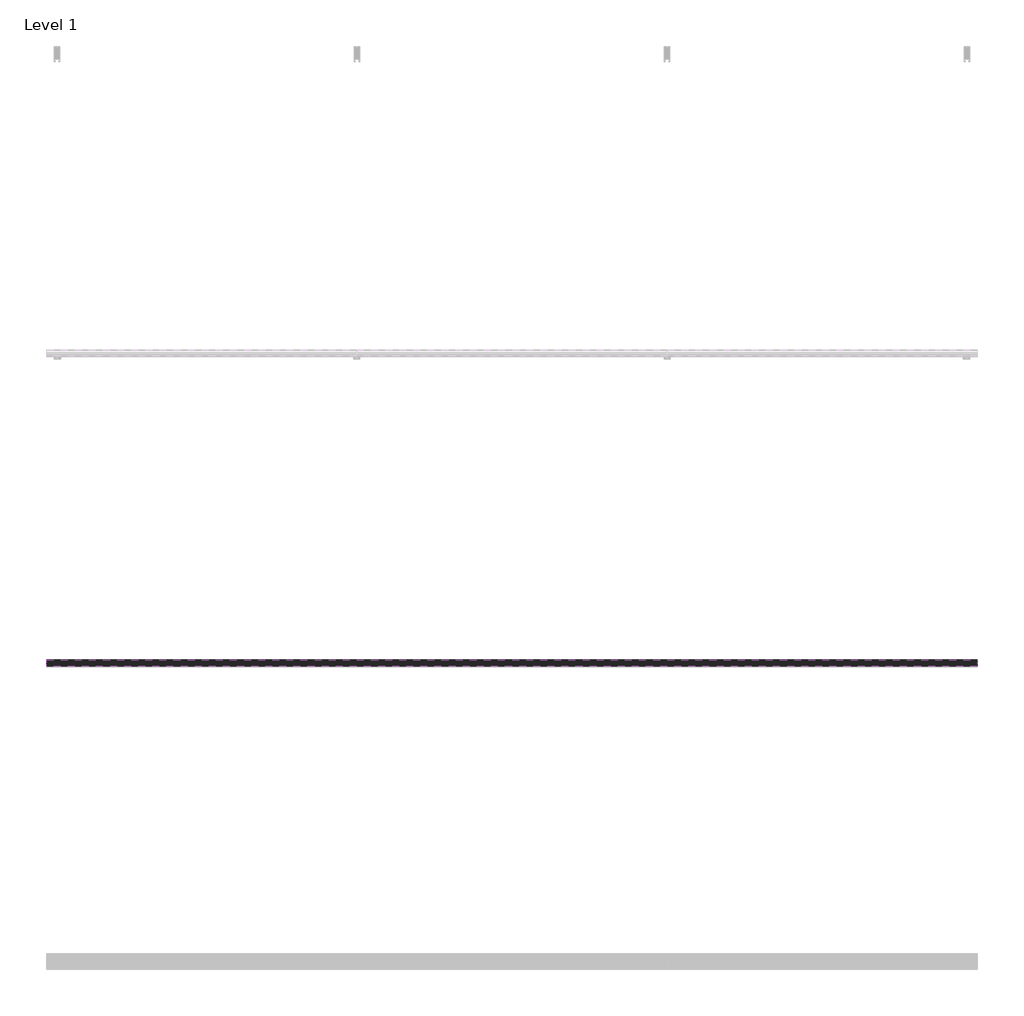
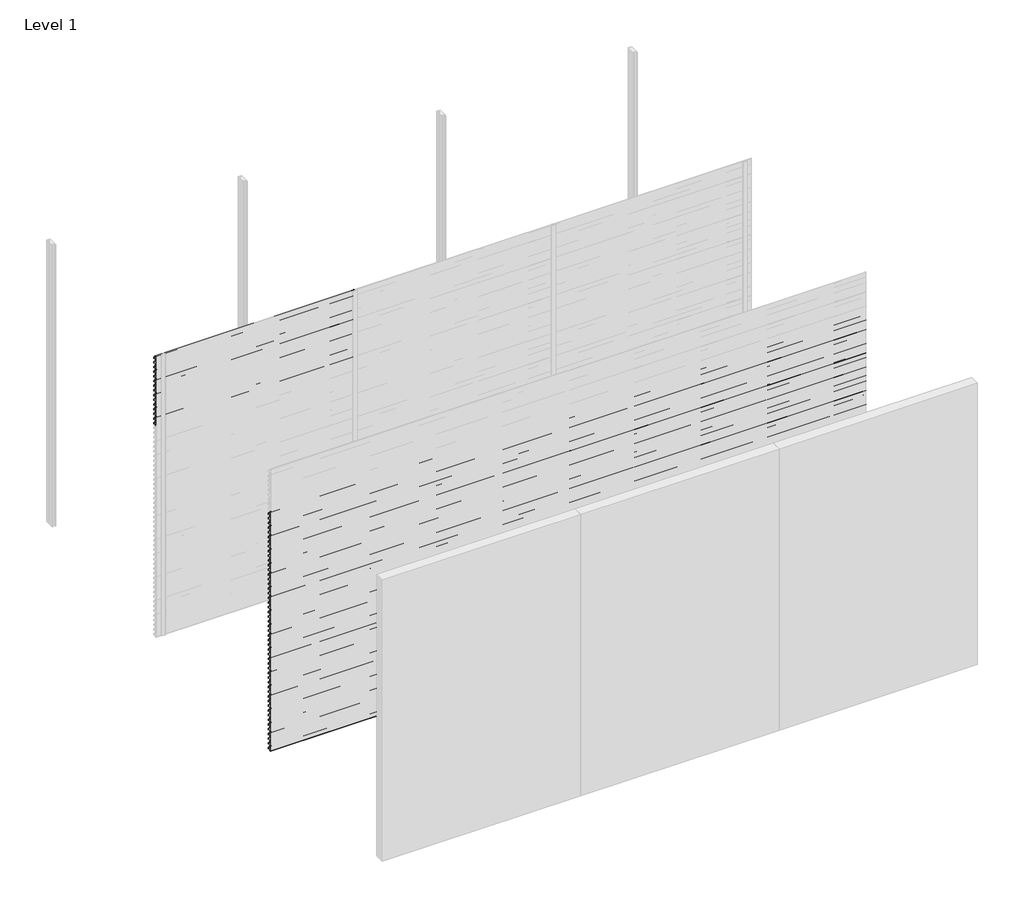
# One storey, part 21 of 38: 66 proxies.
"""IFC4 building model written with IfcOpenShell, lengths in millimetres."""

import ifcopenshell
import ifcopenshell.guid

model = None  # the IFC model being written
_history = None  # IfcOwnerHistory: only IFC2X3 demands one
_inside = {}  # id of a spatial element -> (the spatial element, [elements in it])
_under = {}  # id of a project, library or spatial element -> (it, [spatial elements below it])
_declared = {}  # id of a project -> (the project, [libraries it declares])
_typed = {}  # id of a type object -> (the type object, [elements of that type])
_made_of = {}  # id of a material, layer set ... -> (it, [elements and type objects made of it])


def new_model(schema):
    """Start an empty IFC model of exactly this schema.

    Asked for "IFC4X3", IfcOpenShell would pick the latest addendum, in which some entities
    have other attributes; the version numbers below select the first issue.
    IFC2X3 requires an IfcOwnerHistory on every rooted entity: one is made here for all.
    """
    global model, _history
    if schema == "IFC4X3":
        model = ifcopenshell.file(schema_version=(4, 3, 0, 0))
    else:
        model = ifcopenshell.file(schema=schema)
    _inside.clear()
    _under.clear()
    _declared.clear()
    _typed.clear()
    _made_of.clear()
    _history = None
    if model.schema == "IFC2X3":
        org = make("IfcOrganization", Name="unknown")
        user = make(
            "IfcPersonAndOrganization",
            ThePerson=make("IfcPerson", FamilyName="unknown"),
            TheOrganization=org,
        )
        app = make(
            "IfcApplication",
            ApplicationDeveloper=org,
            Version="unknown",
            ApplicationFullName="unknown",
            ApplicationIdentifier="unknown",
        )
        _history = make(
            "IfcOwnerHistory",
            OwningUser=user,
            OwningApplication=app,
            ChangeAction="ADDED",
            CreationDate=0,
        )
    return model


def make(cls, **values):
    """One entity of the class cls with the attributes given. An attribute that is None is left unset."""
    return model.create_entity(
        cls, **{name: value for name, value in values.items() if value is not None}
    )


def rooted(cls, **values):
    """An entity with a GlobalId (a new one), such as an element, a storey or a relation."""
    return make(cls, GlobalId=ifcopenshell.guid.new(), OwnerHistory=_history, **values)


def si_unit(unit_type, name, prefix=None):
    """IfcSIUnit, for example si_unit("LENGTHUNIT", "METRE", prefix="MILLI")."""
    return make("IfcSIUnit", UnitType=unit_type, Prefix=prefix, Name=name)


def assignment(units):
    """IfcUnitAssignment: the units of a project."""
    return None if units is None else make("IfcUnitAssignment", Units=units)


def point(xyz):
    """IfcCartesianPoint."""
    return None if xyz is None else make("IfcCartesianPoint", Coordinates=xyz)


def direction(xyz):
    """IfcDirection."""
    return None if xyz is None else make("IfcDirection", DirectionRatios=xyz)


def frame(location, z_axis=None, x_axis=None):
    """IfcAxis2Placement3D, a coordinate frame: its origin and axes. An axis left out is left unset."""
    return make(
        "IfcAxis2Placement3D",
        Location=point(location),
        Axis=direction(z_axis),
        RefDirection=direction(x_axis),
    )


def origin():
    """The frame at (0, 0, 0) with its axes left unset."""
    return frame((0.0, 0.0, 0.0))


def place(relative_to, where):
    """IfcLocalPlacement: puts the frame where relative to a parent placement (None: the world)."""
    return make(
        "IfcLocalPlacement", PlacementRelTo=relative_to, RelativePlacement=where
    )


def context(
    kind, dimensions, precision=None, world=None, true_north=None, identifier=None
):
    """IfcGeometricRepresentationContext, for example the 3D "Model" context."""
    return make(
        "IfcGeometricRepresentationContext",
        ContextIdentifier=identifier,
        ContextType=kind,
        CoordinateSpaceDimension=dimensions,
        Precision=precision,
        WorldCoordinateSystem=world,
        TrueNorth=true_north,
    )


def project(units=None, contexts=None):
    """IfcProject with its units and contexts."""
    return rooted(
        "IfcProject",
        Name="project",
        RepresentationContexts=contexts,
        UnitsInContext=assignment(units),
    )


def spatial(cls, under=None, at=None, **own):
    """A site, building, storey or space (cls), placed at a placement, below another one or the project."""
    s = rooted(cls, ObjectPlacement=at, **own)
    if under is not None:
        _under.setdefault(under.id(), (under, []))[1].append(s)
    return s


def polyline(points):
    """IfcPolyline through the points."""
    return make("IfcPolyline", Points=[point(p) for p in points])


def outline(outer, holes=None, kind="AREA"):
    """IfcArbitraryClosedProfileDef: a profile drawn as a closed curve; with holes, ...WithVoids."""
    if holes is None:
        return make("IfcArbitraryClosedProfileDef", ProfileType=kind, OuterCurve=outer)
    return make(
        "IfcArbitraryProfileDefWithVoids",
        ProfileType=kind,
        OuterCurve=outer,
        InnerCurves=holes,
    )


def extrude(swept, where, along, depth):
    """IfcExtrudedAreaSolid: the profile swept, set in the frame where, extruded along a direction by depth."""
    return make(
        "IfcExtrudedAreaSolid",
        SweptArea=swept,
        Position=where,
        ExtrudedDirection=direction(along),
        Depth=depth,
    )


def shape(context_of_items, identifier, shape_type, items):
    """IfcShapeRepresentation: the items that make up one representation, for example the "Body"."""
    return make(
        "IfcShapeRepresentation",
        ContextOfItems=context_of_items,
        RepresentationIdentifier=identifier,
        RepresentationType=shape_type,
        Items=items,
    )


def made_of(thing, what):
    """Note that an element or type object is made of a material, layer set ...; save() writes the relation."""
    if what is not None:
        _made_of.setdefault(what.id(), (what, []))[1].append(thing)
    return thing


def element(
    cls,
    number,
    at=None,
    inside=None,
    cuts=None,
    type_object=None,
    material=None,
    context=None,
    identifier="Body",
    shape_type=None,
    held_by="IfcProductDefinitionShape",
    body=None,
    shapes=None,
    **own,
):
    """One element of the class cls, such as IfcWall. Its Tag is "e" and its number.

    at: its placement. inside: the storey or other place that contains it. cuts: it is an
    opening in that element (IfcRelVoidsElement). A single representation is given by context,
    identifier, shape_type and body (its items); several are given by shapes. held_by: the class
    of the entity that holds the representations. save() writes the other relations.
    """
    e = rooted(cls, Tag="e%d" % number, ObjectPlacement=at, **own)
    if body is not None:
        shapes = [shape(context, identifier, shape_type, body)]
    if shapes is not None:
        e.Representation = make(held_by, Representations=shapes)
    if inside is not None:
        _inside.setdefault(inside.id(), (inside, []))[1].append(e)
    if cuts is not None:
        rooted(
            "IfcRelVoidsElement", RelatingBuildingElement=cuts, RelatedOpeningElement=e
        )
    if type_object is not None:
        _typed.setdefault(type_object.id(), (type_object, []))[1].append(e)
    return made_of(e, material)


def aggregate(whole, parts):
    """IfcRelAggregates: a whole, such as a stair, and the parts it consists of."""
    return rooted("IfcRelAggregates", RelatingObject=whole, RelatedObjects=parts)


def save(model, path):
    """Write the relations noted so far, then the file.

    IfcRelAggregates (storeys below a building ...), IfcRelContainedInSpatialStructure (elements
    in a storey), IfcRelDefinesByType, IfcRelAssociatesMaterial and IfcRelDeclares: one each for
    every whole, place, type object, material and project.
    """
    for whole, parts in _under.values():
        aggregate(whole, parts)
    for where, things in _inside.values():
        rooted(
            "IfcRelContainedInSpatialStructure",
            RelatedElements=things,
            RelatingStructure=where,
        )
    for kind, things in _typed.values():
        rooted("IfcRelDefinesByType", RelatedObjects=things, RelatingType=kind)
    for what, things in _made_of.values():
        rooted("IfcRelAssociatesMaterial", RelatedObjects=things, RelatingMaterial=what)
    for by, libraries in _declared.values():
        rooted("IfcRelDeclares", RelatingContext=by, RelatedDefinitions=libraries)
    model.write(path)


model = new_model("IFC4")

# Units and contexts
model_context = context("Model", 3, world=origin())
ifc_project = project(units=[si_unit("LENGTHUNIT", "METRE", prefix="MILLI")], contexts=[model_context])

# Site, building, storey
site = spatial("IfcSite", under=ifc_project)
building = spatial("IfcBuilding", under=site)
storey = spatial("IfcBuildingStorey", under=building, Name="Level 1", Elevation=0.0)

# Proxies
placement = place(None, origin())
element("IfcBuildingElementProxy", 1, Name="Wall Sweeps", at=placement, inside=storey, context=model_context, shape_type="SweptSolid", body=[
    extrude(outline(polyline([(-23996.75, 3000.0), (-23996.75, 2989.19656), (-23974.6057113, 2976.4115489), (-23957.0, 2959.0472005), (-23957.0, 2944.0472005), (-23958.3, 2945.0268207), (-23958.3, 2958.5034593), (-23969.4914725, 2969.541504), (-23994.2797376, 2940.0), (-23995.9767671, 2940.0), (-23970.4200307, 2970.4573323), (-23975.3999793, 2975.3690091), (-23998.0, 2988.4171371), (-23998.0, 3000.0), (-23996.75, 3000.0)])), frame((0.0, 0.0, 0.0), z_axis=(1.0, 0.0, 0.0), x_axis=(0.0, 1.0, 0.0)), (0.0, 0.0, 1.0), 2000.0),
])
element("IfcBuildingElementProxy", 2, Name="Wall Sweeps", at=placement, inside=storey, context=model_context, shape_type="SweptSolid", body=[
    extrude(outline(polyline([(-23996.75, 2950.0), (-23996.75, 2939.19656), (-23974.6057113, 2926.4115489), (-23957.0, 2909.0472005), (-23957.0, 2894.0472005), (-23958.3, 2895.0268207), (-23958.3, 2908.5034593), (-23969.4914725, 2919.541504), (-23994.2797376, 2890.0), (-23995.9767671, 2890.0), (-23970.4200307, 2920.4573323), (-23975.3999793, 2925.3690091), (-23998.0, 2938.4171371), (-23998.0, 2950.0), (-23996.75, 2950.0)])), frame((0.0, 0.0, 0.0), z_axis=(1.0, 0.0, 0.0), x_axis=(0.0, 1.0, 0.0)), (0.0, 0.0, 1.0), 2000.0),
])
element("IfcBuildingElementProxy", 3, Name="Wall Sweeps", at=placement, inside=storey, context=model_context, shape_type="SweptSolid", body=[
    extrude(outline(polyline([(-23996.75, 2900.0), (-23996.75, 2889.19656), (-23974.6057113, 2876.4115489), (-23957.0, 2859.0472005), (-23957.0, 2844.0472005), (-23958.3, 2845.0268207), (-23958.3, 2858.5034593), (-23969.4914725, 2869.541504), (-23994.2797376, 2840.0), (-23995.9767671, 2840.0), (-23970.4200307, 2870.4573323), (-23975.3999793, 2875.3690091), (-23998.0, 2888.4171371), (-23998.0, 2900.0), (-23996.75, 2900.0)])), frame((0.0, 0.0, 0.0), z_axis=(1.0, 0.0, 0.0), x_axis=(0.0, 1.0, 0.0)), (0.0, 0.0, 1.0), 2000.0),
])
element("IfcBuildingElementProxy", 4, Name="Wall Sweeps", at=placement, inside=storey, context=model_context, shape_type="SweptSolid", body=[
    extrude(outline(polyline([(-23996.75, 2850.0), (-23996.75, 2839.19656), (-23974.6057113, 2826.4115489), (-23957.0, 2809.0472005), (-23957.0, 2794.0472005), (-23958.3, 2795.0268207), (-23958.3, 2808.5034593), (-23969.4914725, 2819.541504), (-23994.2797376, 2790.0), (-23995.9767671, 2790.0), (-23970.4200307, 2820.4573323), (-23975.3999793, 2825.3690091), (-23998.0, 2838.4171371), (-23998.0, 2850.0), (-23996.75, 2850.0)])), frame((0.0, 0.0, 0.0), z_axis=(1.0, 0.0, 0.0), x_axis=(0.0, 1.0, 0.0)), (0.0, 0.0, 1.0), 2000.0),
])
element("IfcBuildingElementProxy", 5, Name="Wall Sweeps", at=placement, inside=storey, context=model_context, shape_type="SweptSolid", body=[
    extrude(outline(polyline([(-23996.75, 2800.0), (-23996.75, 2789.19656), (-23974.6057113, 2776.4115489), (-23957.0, 2759.0472005), (-23957.0, 2744.0472005), (-23958.3, 2745.0268207), (-23958.3, 2758.5034593), (-23969.4914725, 2769.541504), (-23994.2797376, 2740.0), (-23995.9767671, 2740.0), (-23970.4200307, 2770.4573323), (-23975.3999793, 2775.3690091), (-23998.0, 2788.4171371), (-23998.0, 2800.0), (-23996.75, 2800.0)])), frame((0.0, 0.0, 0.0), z_axis=(1.0, 0.0, 0.0), x_axis=(0.0, 1.0, 0.0)), (0.0, 0.0, 1.0), 2000.0),
])
element("IfcBuildingElementProxy", 6, Name="Wall Sweeps", at=placement, inside=storey, context=model_context, shape_type="SweptSolid", body=[
    extrude(outline(polyline([(-23996.75, 2750.0), (-23996.75, 2739.19656), (-23974.6057113, 2726.4115489), (-23957.0, 2709.0472005), (-23957.0, 2694.0472005), (-23958.3, 2695.0268207), (-23958.3, 2708.5034593), (-23969.4914725, 2719.541504), (-23994.2797376, 2690.0), (-23995.9767671, 2690.0), (-23970.4200307, 2720.4573323), (-23975.3999793, 2725.3690091), (-23998.0, 2738.4171371), (-23998.0, 2750.0), (-23996.75, 2750.0)])), frame((0.0, 0.0, 0.0), z_axis=(1.0, 0.0, 0.0), x_axis=(0.0, 1.0, 0.0)), (0.0, 0.0, 1.0), 2000.0),
])
element("IfcBuildingElementProxy", 7, Name="Wall Sweeps", at=placement, inside=storey, context=model_context, shape_type="SweptSolid", body=[
    extrude(outline(polyline([(-23996.75, 2700.0), (-23996.75, 2689.19656), (-23974.6057113, 2676.4115489), (-23957.0, 2659.0472005), (-23957.0, 2644.0472005), (-23958.3, 2645.0268207), (-23958.3, 2658.5034593), (-23969.4914725, 2669.541504), (-23994.2797376, 2640.0), (-23995.9767671, 2640.0), (-23970.4200307, 2670.4573323), (-23975.3999793, 2675.3690091), (-23998.0, 2688.4171371), (-23998.0, 2700.0), (-23996.75, 2700.0)])), frame((0.0, 0.0, 0.0), z_axis=(1.0, 0.0, 0.0), x_axis=(0.0, 1.0, 0.0)), (0.0, 0.0, 1.0), 2000.0),
])
element("IfcBuildingElementProxy", 8, Name="Wall Sweeps", at=placement, inside=storey, context=model_context, shape_type="SweptSolid", body=[
    extrude(outline(polyline([(-23996.75, 2650.0), (-23996.75, 2639.19656), (-23974.6057113, 2626.4115489), (-23957.0, 2609.0472005), (-23957.0, 2594.0472005), (-23958.3, 2595.0268207), (-23958.3, 2608.5034593), (-23969.4914725, 2619.541504), (-23994.2797376, 2590.0), (-23995.9767671, 2590.0), (-23970.4200307, 2620.4573323), (-23975.3999793, 2625.3690091), (-23998.0, 2638.4171371), (-23998.0, 2650.0), (-23996.75, 2650.0)])), frame((0.0, 0.0, 0.0), z_axis=(1.0, 0.0, 0.0), x_axis=(0.0, 1.0, 0.0)), (0.0, 0.0, 1.0), 2000.0),
])
element("IfcBuildingElementProxy", 9, Name="Wall Sweeps", at=placement, inside=storey, context=model_context, shape_type="SweptSolid", body=[
    extrude(outline(polyline([(-23996.75, 2600.0), (-23996.75, 2589.19656), (-23974.6057113, 2576.4115489), (-23957.0, 2559.0472005), (-23957.0, 2544.0472005), (-23958.3, 2545.0268207), (-23958.3, 2558.5034593), (-23969.4914725, 2569.541504), (-23994.2797376, 2540.0), (-23995.9767671, 2540.0), (-23970.4200307, 2570.4573323), (-23975.3999793, 2575.3690091), (-23998.0, 2588.4171371), (-23998.0, 2600.0), (-23996.75, 2600.0)])), frame((0.0, 0.0, 0.0), z_axis=(1.0, 0.0, 0.0), x_axis=(0.0, 1.0, 0.0)), (0.0, 0.0, 1.0), 2000.0),
])
element("IfcBuildingElementProxy", 10, Name="Wall Sweeps", at=placement, inside=storey, context=model_context, shape_type="SweptSolid", body=[
    extrude(outline(polyline([(-23996.75, 2550.0), (-23996.75, 2539.19656), (-23974.6057113, 2526.4115489), (-23957.0, 2509.0472005), (-23957.0, 2494.0472005), (-23958.3, 2495.0268207), (-23958.3, 2508.5034593), (-23969.4914725, 2519.541504), (-23994.2797376, 2490.0), (-23995.9767671, 2490.0), (-23970.4200307, 2520.4573323), (-23975.3999793, 2525.3690091), (-23998.0, 2538.4171371), (-23998.0, 2550.0), (-23996.75, 2550.0)])), frame((0.0, 0.0, 0.0), z_axis=(1.0, 0.0, 0.0), x_axis=(0.0, 1.0, 0.0)), (0.0, 0.0, 1.0), 2000.0),
])
element("IfcBuildingElementProxy", 11, Name="Wall Sweeps", at=placement, inside=storey, context=model_context, shape_type="SweptSolid", body=[
    extrude(outline(polyline([(-23996.75, 2500.0), (-23996.75, 2489.19656), (-23974.6057113, 2476.4115489), (-23957.0, 2459.0472005), (-23957.0, 2444.0472005), (-23958.3, 2445.0268207), (-23958.3, 2458.5034593), (-23969.4914725, 2469.541504), (-23994.2797376, 2440.0), (-23995.9767671, 2440.0), (-23970.4200307, 2470.4573323), (-23975.3999793, 2475.3690091), (-23998.0, 2488.4171371), (-23998.0, 2500.0), (-23996.75, 2500.0)])), frame((0.0, 0.0, 0.0), z_axis=(1.0, 0.0, 0.0), x_axis=(0.0, 1.0, 0.0)), (0.0, 0.0, 1.0), 2000.0),
])
element("IfcBuildingElementProxy", 12, Name="Wall Sweeps", at=placement, inside=storey, context=model_context, shape_type="SweptSolid", body=[
    extrude(outline(polyline([(-23996.75, 2450.0), (-23996.75, 2439.19656), (-23974.6057113, 2426.4115489), (-23957.0, 2409.0472005), (-23957.0, 2394.0472005), (-23958.3, 2395.0268207), (-23958.3, 2408.5034593), (-23969.4914725, 2419.541504), (-23994.2797376, 2390.0), (-23995.9767671, 2390.0), (-23970.4200307, 2420.4573323), (-23975.3999793, 2425.3690091), (-23998.0, 2438.4171371), (-23998.0, 2450.0), (-23996.75, 2450.0)])), frame((0.0, 0.0, 0.0), z_axis=(1.0, 0.0, 0.0), x_axis=(0.0, 1.0, 0.0)), (0.0, 0.0, 1.0), 2000.0),
])
element("IfcBuildingElementProxy", 13, Name="Wall Sweeps", at=placement, inside=storey, context=model_context, shape_type="SweptSolid", body=[
    extrude(outline(polyline([(-23996.75, 2400.0), (-23996.75, 2389.19656), (-23974.6057113, 2376.4115489), (-23957.0, 2359.0472005), (-23957.0, 2344.0472005), (-23958.3, 2345.0268207), (-23958.3, 2358.5034593), (-23969.4914725, 2369.541504), (-23994.2797376, 2340.0), (-23995.9767671, 2340.0), (-23970.4200307, 2370.4573323), (-23975.3999793, 2375.3690091), (-23998.0, 2388.4171371), (-23998.0, 2400.0), (-23996.75, 2400.0)])), frame((0.0, 0.0, 0.0), z_axis=(1.0, 0.0, 0.0), x_axis=(0.0, 1.0, 0.0)), (0.0, 0.0, 1.0), 2000.0),
])
element("IfcBuildingElementProxy", 14, Name="Wall Sweeps", at=placement, inside=storey, context=model_context, shape_type="SweptSolid", body=[
    extrude(outline(polyline([(-23996.75, 2350.0), (-23996.75, 2339.19656), (-23974.6057113, 2326.4115489), (-23957.0, 2309.0472005), (-23957.0, 2294.0472005), (-23958.3, 2295.0268207), (-23958.3, 2308.5034593), (-23969.4914725, 2319.541504), (-23994.2797376, 2290.0), (-23995.9767671, 2290.0), (-23970.4200307, 2320.4573323), (-23975.3999793, 2325.3690091), (-23998.0, 2338.4171371), (-23998.0, 2350.0), (-23996.75, 2350.0)])), frame((0.0, 0.0, 0.0), z_axis=(1.0, 0.0, 0.0), x_axis=(0.0, 1.0, 0.0)), (0.0, 0.0, 1.0), 2000.0),
])
element("IfcBuildingElementProxy", 15, Name="Wall Sweeps", at=placement, inside=storey, context=model_context, shape_type="SweptSolid", body=[
    extrude(outline(polyline([(-23996.75, 2300.0), (-23996.75, 2289.19656), (-23974.6057113, 2276.4115489), (-23957.0, 2259.0472005), (-23957.0, 2244.0472005), (-23958.3, 2245.0268207), (-23958.3, 2258.5034593), (-23969.4914725, 2269.541504), (-23994.2797376, 2240.0), (-23995.9767671, 2240.0), (-23970.4200307, 2270.4573323), (-23975.3999793, 2275.3690091), (-23998.0, 2288.4171371), (-23998.0, 2300.0), (-23996.75, 2300.0)])), frame((0.0, 0.0, 0.0), z_axis=(1.0, 0.0, 0.0), x_axis=(0.0, 1.0, 0.0)), (0.0, 0.0, 1.0), 2000.0),
])
element("IfcBuildingElementProxy", 16, Name="Wall Sweeps", at=placement, inside=storey, context=model_context, shape_type="SweptSolid", body=[
    extrude(outline(polyline([(-25996.75, 2550.0), (-25996.75, 2539.19656), (-25974.6057113, 2526.4115489), (-25957.0, 2509.0472005), (-25957.0, 2494.0472005), (-25958.3, 2495.0268207), (-25958.3, 2508.5034593), (-25969.4914725, 2519.541504), (-25994.2797376, 2490.0), (-25995.9767671, 2490.0), (-25970.4200307, 2520.4573323), (-25975.3999793, 2525.3690091), (-25998.0, 2538.4171371), (-25998.0, 2550.0), (-25996.75, 2550.0)])), frame((0.0, 0.0, 0.0), z_axis=(1.0, 0.0, 0.0), x_axis=(0.0, 1.0, 0.0)), (0.0, 0.0, 1.0), 6000.0),
])
element("IfcBuildingElementProxy", 17, Name="Wall Sweeps", at=placement, inside=storey, context=model_context, shape_type="SweptSolid", body=[
    extrude(outline(polyline([(-25996.75, 2500.0), (-25996.75, 2489.19656), (-25974.6057113, 2476.4115489), (-25957.0, 2459.0472005), (-25957.0, 2444.0472005), (-25958.3, 2445.0268207), (-25958.3, 2458.5034593), (-25969.4914725, 2469.541504), (-25994.2797376, 2440.0), (-25995.9767671, 2440.0), (-25970.4200307, 2470.4573323), (-25975.3999793, 2475.3690091), (-25998.0, 2488.4171371), (-25998.0, 2500.0), (-25996.75, 2500.0)])), frame((0.0, 0.0, 0.0), z_axis=(1.0, 0.0, 0.0), x_axis=(0.0, 1.0, 0.0)), (0.0, 0.0, 1.0), 6000.0),
])
element("IfcBuildingElementProxy", 18, Name="Wall Sweeps", at=placement, inside=storey, context=model_context, shape_type="SweptSolid", body=[
    extrude(outline(polyline([(-25996.75, 2450.0), (-25996.75, 2439.19656), (-25974.6057113, 2426.4115489), (-25957.0, 2409.0472005), (-25957.0, 2394.0472005), (-25958.3, 2395.0268207), (-25958.3, 2408.5034593), (-25969.4914725, 2419.541504), (-25994.2797376, 2390.0), (-25995.9767671, 2390.0), (-25970.4200307, 2420.4573323), (-25975.3999793, 2425.3690091), (-25998.0, 2438.4171371), (-25998.0, 2450.0), (-25996.75, 2450.0)])), frame((0.0, 0.0, 0.0), z_axis=(1.0, 0.0, 0.0), x_axis=(0.0, 1.0, 0.0)), (0.0, 0.0, 1.0), 6000.0),
])
element("IfcBuildingElementProxy", 19, Name="Wall Sweeps", at=placement, inside=storey, context=model_context, shape_type="SweptSolid", body=[
    extrude(outline(polyline([(-25996.75, 2400.0), (-25996.75, 2389.19656), (-25974.6057113, 2376.4115489), (-25957.0, 2359.0472005), (-25957.0, 2344.0472005), (-25958.3, 2345.0268207), (-25958.3, 2358.5034593), (-25969.4914725, 2369.541504), (-25994.2797376, 2340.0), (-25995.9767671, 2340.0), (-25970.4200307, 2370.4573323), (-25975.3999793, 2375.3690091), (-25998.0, 2388.4171371), (-25998.0, 2400.0), (-25996.75, 2400.0)])), frame((0.0, 0.0, 0.0), z_axis=(1.0, 0.0, 0.0), x_axis=(0.0, 1.0, 0.0)), (0.0, 0.0, 1.0), 6000.0),
])
element("IfcBuildingElementProxy", 20, Name="Wall Sweeps", at=placement, inside=storey, context=model_context, shape_type="SweptSolid", body=[
    extrude(outline(polyline([(-25996.75, 2350.0), (-25996.75, 2339.19656), (-25974.6057113, 2326.4115489), (-25957.0, 2309.0472005), (-25957.0, 2294.0472005), (-25958.3, 2295.0268207), (-25958.3, 2308.5034593), (-25969.4914725, 2319.541504), (-25994.2797376, 2290.0), (-25995.9767671, 2290.0), (-25970.4200307, 2320.4573323), (-25975.3999793, 2325.3690091), (-25998.0, 2338.4171371), (-25998.0, 2350.0), (-25996.75, 2350.0)])), frame((0.0, 0.0, 0.0), z_axis=(1.0, 0.0, 0.0), x_axis=(0.0, 1.0, 0.0)), (0.0, 0.0, 1.0), 6000.0),
])
element("IfcBuildingElementProxy", 21, Name="Wall Sweeps", at=placement, inside=storey, context=model_context, shape_type="SweptSolid", body=[
    extrude(outline(polyline([(-25996.75, 2300.0), (-25996.75, 2289.19656), (-25974.6057113, 2276.4115489), (-25957.0, 2259.0472005), (-25957.0, 2244.0472005), (-25958.3, 2245.0268207), (-25958.3, 2258.5034593), (-25969.4914725, 2269.541504), (-25994.2797376, 2240.0), (-25995.9767671, 2240.0), (-25970.4200307, 2270.4573323), (-25975.3999793, 2275.3690091), (-25998.0, 2288.4171371), (-25998.0, 2300.0), (-25996.75, 2300.0)])), frame((0.0, 0.0, 0.0), z_axis=(1.0, 0.0, 0.0), x_axis=(0.0, 1.0, 0.0)), (0.0, 0.0, 1.0), 6000.0),
])
element("IfcBuildingElementProxy", 22, Name="Wall Sweeps", at=placement, inside=storey, context=model_context, shape_type="SweptSolid", body=[
    extrude(outline(polyline([(-25996.75, 2250.0), (-25996.75, 2239.19656), (-25974.6057113, 2226.4115489), (-25957.0, 2209.0472005), (-25957.0, 2194.0472005), (-25958.3, 2195.0268207), (-25958.3, 2208.5034593), (-25969.4914725, 2219.541504), (-25994.2797376, 2190.0), (-25995.9767671, 2190.0), (-25970.4200307, 2220.4573323), (-25975.3999793, 2225.3690091), (-25998.0, 2238.4171371), (-25998.0, 2250.0), (-25996.75, 2250.0)])), frame((0.0, 0.0, 0.0), z_axis=(1.0, 0.0, 0.0), x_axis=(0.0, 1.0, 0.0)), (0.0, 0.0, 1.0), 6000.0),
])
element("IfcBuildingElementProxy", 23, Name="Wall Sweeps", at=placement, inside=storey, context=model_context, shape_type="SweptSolid", body=[
    extrude(outline(polyline([(-25996.75, 2200.0), (-25996.75, 2189.19656), (-25974.6057113, 2176.4115489), (-25957.0, 2159.0472005), (-25957.0, 2144.0472005), (-25958.3, 2145.0268207), (-25958.3, 2158.5034593), (-25969.4914725, 2169.541504), (-25994.2797376, 2140.0), (-25995.9767671, 2140.0), (-25970.4200307, 2170.4573323), (-25975.3999793, 2175.3690091), (-25998.0, 2188.4171371), (-25998.0, 2200.0), (-25996.75, 2200.0)])), frame((0.0, 0.0, 0.0), z_axis=(1.0, 0.0, 0.0), x_axis=(0.0, 1.0, 0.0)), (0.0, 0.0, 1.0), 6000.0),
])
element("IfcBuildingElementProxy", 24, Name="Wall Sweeps", at=placement, inside=storey, context=model_context, shape_type="SweptSolid", body=[
    extrude(outline(polyline([(-25996.75, 2150.0), (-25996.75, 2139.19656), (-25974.6057113, 2126.4115489), (-25957.0, 2109.0472005), (-25957.0, 2094.0472005), (-25958.3, 2095.0268207), (-25958.3, 2108.5034593), (-25969.4914725, 2119.541504), (-25994.2797376, 2090.0), (-25995.9767671, 2090.0), (-25970.4200307, 2120.4573323), (-25975.3999793, 2125.3690091), (-25998.0, 2138.4171371), (-25998.0, 2150.0), (-25996.75, 2150.0)])), frame((0.0, 0.0, 0.0), z_axis=(1.0, 0.0, 0.0), x_axis=(0.0, 1.0, 0.0)), (0.0, 0.0, 1.0), 6000.0),
])
element("IfcBuildingElementProxy", 25, Name="Wall Sweeps", at=placement, inside=storey, context=model_context, shape_type="SweptSolid", body=[
    extrude(outline(polyline([(-25996.75, 2100.0), (-25996.75, 2089.19656), (-25974.6057113, 2076.4115489), (-25957.0, 2059.0472005), (-25957.0, 2044.0472005), (-25958.3, 2045.0268207), (-25958.3, 2058.5034593), (-25969.4914725, 2069.541504), (-25994.2797376, 2040.0), (-25995.9767671, 2040.0), (-25970.4200307, 2070.4573323), (-25975.3999793, 2075.3690091), (-25998.0, 2088.4171371), (-25998.0, 2100.0), (-25996.75, 2100.0)])), frame((0.0, 0.0, 0.0), z_axis=(1.0, 0.0, 0.0), x_axis=(0.0, 1.0, 0.0)), (0.0, 0.0, 1.0), 6000.0),
])
element("IfcBuildingElementProxy", 26, Name="Wall Sweeps", at=placement, inside=storey, context=model_context, shape_type="SweptSolid", body=[
    extrude(outline(polyline([(-25996.75, 2050.0), (-25996.75, 2039.19656), (-25974.6057113, 2026.4115489), (-25957.0, 2009.0472005), (-25957.0, 1994.0472005), (-25958.3, 1995.0268207), (-25958.3, 2008.5034593), (-25969.4914725, 2019.541504), (-25994.2797376, 1990.0), (-25995.9767671, 1990.0), (-25970.4200307, 2020.4573323), (-25975.3999793, 2025.3690091), (-25998.0, 2038.4171371), (-25998.0, 2050.0), (-25996.75, 2050.0)])), frame((0.0, 0.0, 0.0), z_axis=(1.0, 0.0, 0.0), x_axis=(0.0, 1.0, 0.0)), (0.0, 0.0, 1.0), 6000.0),
])
element("IfcBuildingElementProxy", 27, Name="Wall Sweeps", at=placement, inside=storey, context=model_context, shape_type="SweptSolid", body=[
    extrude(outline(polyline([(-25996.75, 2000.0), (-25996.75, 1989.19656), (-25974.6057113, 1976.4115489), (-25957.0, 1959.0472005), (-25957.0, 1944.0472005), (-25958.3, 1945.0268207), (-25958.3, 1958.5034593), (-25969.4914725, 1969.541504), (-25994.2797376, 1940.0), (-25995.9767671, 1940.0), (-25970.4200307, 1970.4573323), (-25975.3999793, 1975.3690091), (-25998.0, 1988.4171371), (-25998.0, 2000.0), (-25996.75, 2000.0)])), frame((0.0, 0.0, 0.0), z_axis=(1.0, 0.0, 0.0), x_axis=(0.0, 1.0, 0.0)), (0.0, 0.0, 1.0), 6000.0),
])
element("IfcBuildingElementProxy", 28, Name="Wall Sweeps", at=placement, inside=storey, context=model_context, shape_type="SweptSolid", body=[
    extrude(outline(polyline([(-25996.75, 1950.0), (-25996.75, 1939.19656), (-25974.6057113, 1926.4115489), (-25957.0, 1909.0472005), (-25957.0, 1894.0472005), (-25958.3, 1895.0268207), (-25958.3, 1908.5034593), (-25969.4914725, 1919.541504), (-25994.2797376, 1890.0), (-25995.9767671, 1890.0), (-25970.4200307, 1920.4573323), (-25975.3999793, 1925.3690091), (-25998.0, 1938.4171371), (-25998.0, 1950.0), (-25996.75, 1950.0)])), frame((0.0, 0.0, 0.0), z_axis=(1.0, 0.0, 0.0), x_axis=(0.0, 1.0, 0.0)), (0.0, 0.0, 1.0), 6000.0),
])
element("IfcBuildingElementProxy", 29, Name="Wall Sweeps", at=placement, inside=storey, context=model_context, shape_type="SweptSolid", body=[
    extrude(outline(polyline([(-25996.75, 1900.0), (-25996.75, 1889.19656), (-25974.6057113, 1876.4115489), (-25957.0, 1859.0472005), (-25957.0, 1844.0472005), (-25958.3, 1845.0268207), (-25958.3, 1858.5034593), (-25969.4914725, 1869.541504), (-25994.2797376, 1840.0), (-25995.9767671, 1840.0), (-25970.4200307, 1870.4573323), (-25975.3999793, 1875.3690091), (-25998.0, 1888.4171371), (-25998.0, 1900.0), (-25996.75, 1900.0)])), frame((0.0, 0.0, 0.0), z_axis=(1.0, 0.0, 0.0), x_axis=(0.0, 1.0, 0.0)), (0.0, 0.0, 1.0), 6000.0),
])
element("IfcBuildingElementProxy", 30, Name="Wall Sweeps", at=placement, inside=storey, context=model_context, shape_type="SweptSolid", body=[
    extrude(outline(polyline([(-25996.75, 1850.0), (-25996.75, 1839.19656), (-25974.6057113, 1826.4115489), (-25957.0, 1809.0472005), (-25957.0, 1794.0472005), (-25958.3, 1795.0268207), (-25958.3, 1808.5034593), (-25969.4914725, 1819.541504), (-25994.2797376, 1790.0), (-25995.9767671, 1790.0), (-25970.4200307, 1820.4573323), (-25975.3999793, 1825.3690091), (-25998.0, 1838.4171371), (-25998.0, 1850.0), (-25996.75, 1850.0)])), frame((0.0, 0.0, 0.0), z_axis=(1.0, 0.0, 0.0), x_axis=(0.0, 1.0, 0.0)), (0.0, 0.0, 1.0), 6000.0),
])
element("IfcBuildingElementProxy", 31, Name="Wall Sweeps", at=placement, inside=storey, context=model_context, shape_type="SweptSolid", body=[
    extrude(outline(polyline([(-25996.75, 1800.0), (-25996.75, 1789.19656), (-25974.6057113, 1776.4115489), (-25957.0, 1759.0472005), (-25957.0, 1744.0472005), (-25958.3, 1745.0268207), (-25958.3, 1758.5034593), (-25969.4914725, 1769.541504), (-25994.2797376, 1740.0), (-25995.9767671, 1740.0), (-25970.4200307, 1770.4573323), (-25975.3999793, 1775.3690091), (-25998.0, 1788.4171371), (-25998.0, 1800.0), (-25996.75, 1800.0)])), frame((0.0, 0.0, 0.0), z_axis=(1.0, 0.0, 0.0), x_axis=(0.0, 1.0, 0.0)), (0.0, 0.0, 1.0), 6000.0),
])
element("IfcBuildingElementProxy", 32, Name="Wall Sweeps", at=placement, inside=storey, context=model_context, shape_type="SweptSolid", body=[
    extrude(outline(polyline([(-25996.75, 1750.0), (-25996.75, 1739.19656), (-25974.6057113, 1726.4115489), (-25957.0, 1709.0472005), (-25957.0, 1694.0472005), (-25958.3, 1695.0268207), (-25958.3, 1708.5034593), (-25969.4914725, 1719.541504), (-25994.2797376, 1690.0), (-25995.9767671, 1690.0), (-25970.4200307, 1720.4573323), (-25975.3999793, 1725.3690091), (-25998.0, 1738.4171371), (-25998.0, 1750.0), (-25996.75, 1750.0)])), frame((0.0, 0.0, 0.0), z_axis=(1.0, 0.0, 0.0), x_axis=(0.0, 1.0, 0.0)), (0.0, 0.0, 1.0), 6000.0),
])
element("IfcBuildingElementProxy", 33, Name="Wall Sweeps", at=placement, inside=storey, context=model_context, shape_type="SweptSolid", body=[
    extrude(outline(polyline([(-25996.75, 1700.0), (-25996.75, 1689.19656), (-25974.6057113, 1676.4115489), (-25957.0, 1659.0472005), (-25957.0, 1644.0472005), (-25958.3, 1645.0268207), (-25958.3, 1658.5034593), (-25969.4914725, 1669.541504), (-25994.2797376, 1640.0), (-25995.9767671, 1640.0), (-25970.4200307, 1670.4573323), (-25975.3999793, 1675.3690091), (-25998.0, 1688.4171371), (-25998.0, 1700.0), (-25996.75, 1700.0)])), frame((0.0, 0.0, 0.0), z_axis=(1.0, 0.0, 0.0), x_axis=(0.0, 1.0, 0.0)), (0.0, 0.0, 1.0), 6000.0),
])
element("IfcBuildingElementProxy", 34, Name="Wall Sweeps", at=placement, inside=storey, context=model_context, shape_type="SweptSolid", body=[
    extrude(outline(polyline([(-25996.75, 1650.0), (-25996.75, 1639.19656), (-25974.6057113, 1626.4115489), (-25957.0, 1609.0472005), (-25957.0, 1594.0472005), (-25958.3, 1595.0268207), (-25958.3, 1608.5034593), (-25969.4914725, 1619.541504), (-25994.2797376, 1590.0), (-25995.9767671, 1590.0), (-25970.4200307, 1620.4573323), (-25975.3999793, 1625.3690091), (-25998.0, 1638.4171371), (-25998.0, 1650.0), (-25996.75, 1650.0)])), frame((0.0, 0.0, 0.0), z_axis=(1.0, 0.0, 0.0), x_axis=(0.0, 1.0, 0.0)), (0.0, 0.0, 1.0), 6000.0),
])
element("IfcBuildingElementProxy", 35, Name="Wall Sweeps", at=placement, inside=storey, context=model_context, shape_type="SweptSolid", body=[
    extrude(outline(polyline([(-25996.75, 1600.0), (-25996.75, 1589.19656), (-25974.6057113, 1576.4115489), (-25957.0, 1559.0472005), (-25957.0, 1544.0472005), (-25958.3, 1545.0268207), (-25958.3, 1558.5034593), (-25969.4914725, 1569.541504), (-25994.2797376, 1540.0), (-25995.9767671, 1540.0), (-25970.4200307, 1570.4573323), (-25975.3999793, 1575.3690091), (-25998.0, 1588.4171371), (-25998.0, 1600.0), (-25996.75, 1600.0)])), frame((0.0, 0.0, 0.0), z_axis=(1.0, 0.0, 0.0), x_axis=(0.0, 1.0, 0.0)), (0.0, 0.0, 1.0), 6000.0),
])
element("IfcBuildingElementProxy", 36, Name="Wall Sweeps", at=placement, inside=storey, context=model_context, shape_type="SweptSolid", body=[
    extrude(outline(polyline([(-25996.75, 1550.0), (-25996.75, 1539.19656), (-25974.6057113, 1526.4115489), (-25957.0, 1509.0472005), (-25957.0, 1494.0472005), (-25958.3, 1495.0268207), (-25958.3, 1508.5034593), (-25969.4914725, 1519.541504), (-25994.2797376, 1490.0), (-25995.9767671, 1490.0), (-25970.4200307, 1520.4573323), (-25975.3999793, 1525.3690091), (-25998.0, 1538.4171371), (-25998.0, 1550.0), (-25996.75, 1550.0)])), frame((0.0, 0.0, 0.0), z_axis=(1.0, 0.0, 0.0), x_axis=(0.0, 1.0, 0.0)), (0.0, 0.0, 1.0), 6000.0),
])
element("IfcBuildingElementProxy", 37, Name="Wall Sweeps", at=placement, inside=storey, context=model_context, shape_type="SweptSolid", body=[
    extrude(outline(polyline([(-25996.75, 1500.0), (-25996.75, 1489.19656), (-25974.6057113, 1476.4115489), (-25957.0, 1459.0472005), (-25957.0, 1444.0472005), (-25958.3, 1445.0268207), (-25958.3, 1458.5034593), (-25969.4914725, 1469.541504), (-25994.2797376, 1440.0), (-25995.9767671, 1440.0), (-25970.4200307, 1470.4573323), (-25975.3999793, 1475.3690091), (-25998.0, 1488.4171371), (-25998.0, 1500.0), (-25996.75, 1500.0)])), frame((0.0, 0.0, 0.0), z_axis=(1.0, 0.0, 0.0), x_axis=(0.0, 1.0, 0.0)), (0.0, 0.0, 1.0), 6000.0),
])
element("IfcBuildingElementProxy", 38, Name="Wall Sweeps", at=placement, inside=storey, context=model_context, shape_type="SweptSolid", body=[
    extrude(outline(polyline([(-25996.75, 1450.0), (-25996.75, 1439.19656), (-25974.6057113, 1426.4115489), (-25957.0, 1409.0472005), (-25957.0, 1394.0472005), (-25958.3, 1395.0268207), (-25958.3, 1408.5034593), (-25969.4914725, 1419.541504), (-25994.2797376, 1390.0), (-25995.9767671, 1390.0), (-25970.4200307, 1420.4573323), (-25975.3999793, 1425.3690091), (-25998.0, 1438.4171371), (-25998.0, 1450.0), (-25996.75, 1450.0)])), frame((0.0, 0.0, 0.0), z_axis=(1.0, 0.0, 0.0), x_axis=(0.0, 1.0, 0.0)), (0.0, 0.0, 1.0), 6000.0),
])
element("IfcBuildingElementProxy", 39, Name="Wall Sweeps", at=placement, inside=storey, context=model_context, shape_type="SweptSolid", body=[
    extrude(outline(polyline([(-25996.75, 1400.0), (-25996.75, 1389.19656), (-25974.6057113, 1376.4115489), (-25957.0, 1359.0472005), (-25957.0, 1344.0472005), (-25958.3, 1345.0268207), (-25958.3, 1358.5034593), (-25969.4914725, 1369.541504), (-25994.2797376, 1340.0), (-25995.9767671, 1340.0), (-25970.4200307, 1370.4573323), (-25975.3999793, 1375.3690091), (-25998.0, 1388.4171371), (-25998.0, 1400.0), (-25996.75, 1400.0)])), frame((0.0, 0.0, 0.0), z_axis=(1.0, 0.0, 0.0), x_axis=(0.0, 1.0, 0.0)), (0.0, 0.0, 1.0), 6000.0),
])
element("IfcBuildingElementProxy", 40, Name="Wall Sweeps", at=placement, inside=storey, context=model_context, shape_type="SweptSolid", body=[
    extrude(outline(polyline([(-25996.75, 1350.0), (-25996.75, 1339.19656), (-25974.6057113, 1326.4115489), (-25957.0, 1309.0472005), (-25957.0, 1294.0472005), (-25958.3, 1295.0268207), (-25958.3, 1308.5034593), (-25969.4914725, 1319.541504), (-25994.2797376, 1290.0), (-25995.9767671, 1290.0), (-25970.4200307, 1320.4573323), (-25975.3999793, 1325.3690091), (-25998.0, 1338.4171371), (-25998.0, 1350.0), (-25996.75, 1350.0)])), frame((0.0, 0.0, 0.0), z_axis=(1.0, 0.0, 0.0), x_axis=(0.0, 1.0, 0.0)), (0.0, 0.0, 1.0), 6000.0),
])
element("IfcBuildingElementProxy", 41, Name="Wall Sweeps", at=placement, inside=storey, context=model_context, shape_type="SweptSolid", body=[
    extrude(outline(polyline([(-25996.75, 1300.0), (-25996.75, 1289.19656), (-25974.6057113, 1276.4115489), (-25957.0, 1259.0472005), (-25957.0, 1244.0472005), (-25958.3, 1245.0268207), (-25958.3, 1258.5034593), (-25969.4914725, 1269.541504), (-25994.2797376, 1240.0), (-25995.9767671, 1240.0), (-25970.4200307, 1270.4573323), (-25975.3999793, 1275.3690091), (-25998.0, 1288.4171371), (-25998.0, 1300.0), (-25996.75, 1300.0)])), frame((0.0, 0.0, 0.0), z_axis=(1.0, 0.0, 0.0), x_axis=(0.0, 1.0, 0.0)), (0.0, 0.0, 1.0), 6000.0),
])
element("IfcBuildingElementProxy", 42, Name="Wall Sweeps", at=placement, inside=storey, context=model_context, shape_type="SweptSolid", body=[
    extrude(outline(polyline([(-25996.75, 1250.0), (-25996.75, 1239.19656), (-25974.6057113, 1226.4115489), (-25957.0, 1209.0472005), (-25957.0, 1194.0472005), (-25958.3, 1195.0268207), (-25958.3, 1208.5034593), (-25969.4914725, 1219.541504), (-25994.2797376, 1190.0), (-25995.9767671, 1190.0), (-25970.4200307, 1220.4573323), (-25975.3999793, 1225.3690091), (-25998.0, 1238.4171371), (-25998.0, 1250.0), (-25996.75, 1250.0)])), frame((0.0, 0.0, 0.0), z_axis=(1.0, 0.0, 0.0), x_axis=(0.0, 1.0, 0.0)), (0.0, 0.0, 1.0), 6000.0),
])
element("IfcBuildingElementProxy", 43, Name="Wall Sweeps", at=placement, inside=storey, context=model_context, shape_type="SweptSolid", body=[
    extrude(outline(polyline([(-25996.75, 1200.0), (-25996.75, 1189.19656), (-25974.6057113, 1176.4115489), (-25957.0, 1159.0472005), (-25957.0, 1144.0472005), (-25958.3, 1145.0268207), (-25958.3, 1158.5034593), (-25969.4914725, 1169.541504), (-25994.2797376, 1140.0), (-25995.9767671, 1140.0), (-25970.4200307, 1170.4573323), (-25975.3999793, 1175.3690091), (-25998.0, 1188.4171371), (-25998.0, 1200.0), (-25996.75, 1200.0)])), frame((0.0, 0.0, 0.0), z_axis=(1.0, 0.0, 0.0), x_axis=(0.0, 1.0, 0.0)), (0.0, 0.0, 1.0), 6000.0),
])
element("IfcBuildingElementProxy", 44, Name="Wall Sweeps", at=placement, inside=storey, context=model_context, shape_type="SweptSolid", body=[
    extrude(outline(polyline([(-25996.75, 1150.0), (-25996.75, 1139.19656), (-25974.6057113, 1126.4115489), (-25957.0, 1109.0472005), (-25957.0, 1094.0472005), (-25958.3, 1095.0268207), (-25958.3, 1108.5034593), (-25969.4914725, 1119.541504), (-25994.2797376, 1090.0), (-25995.9767671, 1090.0), (-25970.4200307, 1120.4573323), (-25975.3999793, 1125.3690091), (-25998.0, 1138.4171371), (-25998.0, 1150.0), (-25996.75, 1150.0)])), frame((0.0, 0.0, 0.0), z_axis=(1.0, 0.0, 0.0), x_axis=(0.0, 1.0, 0.0)), (0.0, 0.0, 1.0), 6000.0),
])
element("IfcBuildingElementProxy", 45, Name="Wall Sweeps", at=placement, inside=storey, context=model_context, shape_type="SweptSolid", body=[
    extrude(outline(polyline([(-25996.75, 1100.0), (-25996.75, 1089.19656), (-25974.6057113, 1076.4115489), (-25957.0, 1059.0472005), (-25957.0, 1044.0472005), (-25958.3, 1045.0268207), (-25958.3, 1058.5034593), (-25969.4914725, 1069.541504), (-25994.2797376, 1040.0), (-25995.9767671, 1040.0), (-25970.4200307, 1070.4573323), (-25975.3999793, 1075.3690091), (-25998.0, 1088.4171371), (-25998.0, 1100.0), (-25996.75, 1100.0)])), frame((0.0, 0.0, 0.0), z_axis=(1.0, 0.0, 0.0), x_axis=(0.0, 1.0, 0.0)), (0.0, 0.0, 1.0), 6000.0),
])
element("IfcBuildingElementProxy", 46, Name="Wall Sweeps", at=placement, inside=storey, context=model_context, shape_type="SweptSolid", body=[
    extrude(outline(polyline([(-25996.75, 1050.0), (-25996.75, 1039.19656), (-25974.6057113, 1026.4115489), (-25957.0, 1009.0472005), (-25957.0, 994.0472005), (-25958.3, 995.0268207), (-25958.3, 1008.5034593), (-25969.4914725, 1019.541504), (-25994.2797376, 990.0), (-25995.9767671, 990.0), (-25970.4200307, 1020.4573323), (-25975.3999793, 1025.3690091), (-25998.0, 1038.4171371), (-25998.0, 1050.0), (-25996.75, 1050.0)])), frame((0.0, 0.0, 0.0), z_axis=(1.0, 0.0, 0.0), x_axis=(0.0, 1.0, 0.0)), (0.0, 0.0, 1.0), 6000.0),
])
element("IfcBuildingElementProxy", 47, Name="Wall Sweeps", at=placement, inside=storey, context=model_context, shape_type="SweptSolid", body=[
    extrude(outline(polyline([(-25996.75, 1000.0), (-25996.75, 989.19656), (-25974.6057113, 976.4115489), (-25957.0, 959.0472005), (-25957.0, 944.0472005), (-25958.3, 945.0268207), (-25958.3, 958.5034593), (-25969.4914725, 969.541504), (-25994.2797376, 940.0), (-25995.9767671, 940.0), (-25970.4200307, 970.4573323), (-25975.3999793, 975.3690091), (-25998.0, 988.4171371), (-25998.0, 1000.0), (-25996.75, 1000.0)])), frame((0.0, 0.0, 0.0), z_axis=(1.0, 0.0, 0.0), x_axis=(0.0, 1.0, 0.0)), (0.0, 0.0, 1.0), 6000.0),
])
element("IfcBuildingElementProxy", 48, Name="Wall Sweeps", at=placement, inside=storey, context=model_context, shape_type="SweptSolid", body=[
    extrude(outline(polyline([(-25996.75, 950.0), (-25996.75, 939.19656), (-25974.6057113, 926.4115489), (-25957.0, 909.0472005), (-25957.0, 894.0472005), (-25958.3, 895.0268207), (-25958.3, 908.5034593), (-25969.4914725, 919.541504), (-25994.2797376, 890.0), (-25995.9767671, 890.0), (-25970.4200307, 920.4573323), (-25975.3999793, 925.3690091), (-25998.0, 938.4171371), (-25998.0, 950.0), (-25996.75, 950.0)])), frame((0.0, 0.0, 0.0), z_axis=(1.0, 0.0, 0.0), x_axis=(0.0, 1.0, 0.0)), (0.0, 0.0, 1.0), 6000.0),
])
element("IfcBuildingElementProxy", 49, Name="Wall Sweeps", at=placement, inside=storey, context=model_context, shape_type="SweptSolid", body=[
    extrude(outline(polyline([(-25996.75, 900.0), (-25996.75, 889.19656), (-25974.6057113, 876.4115489), (-25957.0, 859.0472005), (-25957.0, 844.0472005), (-25958.3, 845.0268207), (-25958.3, 858.5034593), (-25969.4914725, 869.541504), (-25994.2797376, 840.0), (-25995.9767671, 840.0), (-25970.4200307, 870.4573323), (-25975.3999793, 875.3690091), (-25998.0, 888.4171371), (-25998.0, 900.0), (-25996.75, 900.0)])), frame((0.0, 0.0, 0.0), z_axis=(1.0, 0.0, 0.0), x_axis=(0.0, 1.0, 0.0)), (0.0, 0.0, 1.0), 6000.0),
])
element("IfcBuildingElementProxy", 50, Name="Wall Sweeps", at=placement, inside=storey, context=model_context, shape_type="SweptSolid", body=[
    extrude(outline(polyline([(-25996.75, 850.0), (-25996.75, 839.19656), (-25974.6057113, 826.4115489), (-25957.0, 809.0472005), (-25957.0, 794.0472005), (-25958.3, 795.0268207), (-25958.3, 808.5034593), (-25969.4914725, 819.541504), (-25994.2797376, 790.0), (-25995.9767671, 790.0), (-25970.4200307, 820.4573323), (-25975.3999793, 825.3690091), (-25998.0, 838.4171371), (-25998.0, 850.0), (-25996.75, 850.0)])), frame((0.0, 0.0, 0.0), z_axis=(1.0, 0.0, 0.0), x_axis=(0.0, 1.0, 0.0)), (0.0, 0.0, 1.0), 6000.0),
])
element("IfcBuildingElementProxy", 51, Name="Wall Sweeps", at=placement, inside=storey, context=model_context, shape_type="SweptSolid", body=[
    extrude(outline(polyline([(-25996.75, 800.0), (-25996.75, 789.19656), (-25974.6057113, 776.4115489), (-25957.0, 759.0472005), (-25957.0, 744.0472005), (-25958.3, 745.0268207), (-25958.3, 758.5034593), (-25969.4914725, 769.541504), (-25994.2797376, 740.0), (-25995.9767671, 740.0), (-25970.4200307, 770.4573323), (-25975.3999793, 775.3690091), (-25998.0, 788.4171371), (-25998.0, 800.0), (-25996.75, 800.0)])), frame((0.0, 0.0, 0.0), z_axis=(1.0, 0.0, 0.0), x_axis=(0.0, 1.0, 0.0)), (0.0, 0.0, 1.0), 6000.0),
])
element("IfcBuildingElementProxy", 52, Name="Wall Sweeps", at=placement, inside=storey, context=model_context, shape_type="SweptSolid", body=[
    extrude(outline(polyline([(-25996.75, 750.0), (-25996.75, 739.19656), (-25974.6057113, 726.4115489), (-25957.0, 709.0472005), (-25957.0, 694.0472005), (-25958.3, 695.0268207), (-25958.3, 708.5034593), (-25969.4914725, 719.541504), (-25994.2797376, 690.0), (-25995.9767671, 690.0), (-25970.4200307, 720.4573323), (-25975.3999793, 725.3690091), (-25998.0, 738.4171371), (-25998.0, 750.0), (-25996.75, 750.0)])), frame((0.0, 0.0, 0.0), z_axis=(1.0, 0.0, 0.0), x_axis=(0.0, 1.0, 0.0)), (0.0, 0.0, 1.0), 6000.0),
])
element("IfcBuildingElementProxy", 53, Name="Wall Sweeps", at=placement, inside=storey, context=model_context, shape_type="SweptSolid", body=[
    extrude(outline(polyline([(-25996.75, 700.0), (-25996.75, 689.19656), (-25974.6057113, 676.4115489), (-25957.0, 659.0472005), (-25957.0, 644.0472005), (-25958.3, 645.0268207), (-25958.3, 658.5034593), (-25969.4914725, 669.541504), (-25994.2797376, 640.0), (-25995.9767671, 640.0), (-25970.4200307, 670.4573323), (-25975.3999793, 675.3690091), (-25998.0, 688.4171371), (-25998.0, 700.0), (-25996.75, 700.0)])), frame((0.0, 0.0, 0.0), z_axis=(1.0, 0.0, 0.0), x_axis=(0.0, 1.0, 0.0)), (0.0, 0.0, 1.0), 6000.0),
])
element("IfcBuildingElementProxy", 54, Name="Wall Sweeps", at=placement, inside=storey, context=model_context, shape_type="SweptSolid", body=[
    extrude(outline(polyline([(-25996.75, 650.0), (-25996.75, 639.19656), (-25974.6057113, 626.4115489), (-25957.0, 609.0472005), (-25957.0, 594.0472005), (-25958.3, 595.0268207), (-25958.3, 608.5034593), (-25969.4914725, 619.541504), (-25994.2797376, 590.0), (-25995.9767671, 590.0), (-25970.4200307, 620.4573323), (-25975.3999793, 625.3690091), (-25998.0, 638.4171371), (-25998.0, 650.0), (-25996.75, 650.0)])), frame((0.0, 0.0, 0.0), z_axis=(1.0, 0.0, 0.0), x_axis=(0.0, 1.0, 0.0)), (0.0, 0.0, 1.0), 6000.0),
])
element("IfcBuildingElementProxy", 55, Name="Wall Sweeps", at=placement, inside=storey, context=model_context, shape_type="SweptSolid", body=[
    extrude(outline(polyline([(-25996.75, 600.0), (-25996.75, 589.19656), (-25974.6057113, 576.4115489), (-25957.0, 559.0472005), (-25957.0, 544.0472005), (-25958.3, 545.0268207), (-25958.3, 558.5034593), (-25969.4914725, 569.541504), (-25994.2797376, 540.0), (-25995.9767671, 540.0), (-25970.4200307, 570.4573323), (-25975.3999793, 575.3690091), (-25998.0, 588.4171371), (-25998.0, 600.0), (-25996.75, 600.0)])), frame((0.0, 0.0, 0.0), z_axis=(1.0, 0.0, 0.0), x_axis=(0.0, 1.0, 0.0)), (0.0, 0.0, 1.0), 6000.0),
])
element("IfcBuildingElementProxy", 56, Name="Wall Sweeps", at=placement, inside=storey, context=model_context, shape_type="SweptSolid", body=[
    extrude(outline(polyline([(-25996.75, 550.0), (-25996.75, 539.19656), (-25974.6057113, 526.4115489), (-25957.0, 509.0472005), (-25957.0, 494.0472005), (-25958.3, 495.0268207), (-25958.3, 508.5034593), (-25969.4914725, 519.541504), (-25994.2797376, 490.0), (-25995.9767671, 490.0), (-25970.4200307, 520.4573323), (-25975.3999793, 525.3690091), (-25998.0, 538.4171371), (-25998.0, 550.0), (-25996.75, 550.0)])), frame((0.0, 0.0, 0.0), z_axis=(1.0, 0.0, 0.0), x_axis=(0.0, 1.0, 0.0)), (0.0, 0.0, 1.0), 6000.0),
])
element("IfcBuildingElementProxy", 57, Name="Wall Sweeps", at=placement, inside=storey, context=model_context, shape_type="SweptSolid", body=[
    extrude(outline(polyline([(-25996.75, 500.0), (-25996.75, 489.19656), (-25974.6057113, 476.4115489), (-25957.0, 459.0472005), (-25957.0, 444.0472005), (-25958.3, 445.0268207), (-25958.3, 458.5034593), (-25969.4914725, 469.541504), (-25994.2797376, 440.0), (-25995.9767671, 440.0), (-25970.4200307, 470.4573323), (-25975.3999793, 475.3690091), (-25998.0, 488.4171371), (-25998.0, 500.0), (-25996.75, 500.0)])), frame((0.0, 0.0, 0.0), z_axis=(1.0, 0.0, 0.0), x_axis=(0.0, 1.0, 0.0)), (0.0, 0.0, 1.0), 6000.0),
])
element("IfcBuildingElementProxy", 58, Name="Wall Sweeps", at=placement, inside=storey, context=model_context, shape_type="SweptSolid", body=[
    extrude(outline(polyline([(-25996.75, 450.0), (-25996.75, 439.19656), (-25974.6057113, 426.4115489), (-25957.0, 409.0472005), (-25957.0, 394.0472005), (-25958.3, 395.0268207), (-25958.3, 408.5034593), (-25969.4914725, 419.541504), (-25994.2797376, 390.0), (-25995.9767671, 390.0), (-25970.4200307, 420.4573323), (-25975.3999793, 425.3690091), (-25998.0, 438.4171371), (-25998.0, 450.0), (-25996.75, 450.0)])), frame((0.0, 0.0, 0.0), z_axis=(1.0, 0.0, 0.0), x_axis=(0.0, 1.0, 0.0)), (0.0, 0.0, 1.0), 6000.0),
])
element("IfcBuildingElementProxy", 59, Name="Wall Sweeps", at=placement, inside=storey, context=model_context, shape_type="SweptSolid", body=[
    extrude(outline(polyline([(-25996.75, 400.0), (-25996.75, 389.19656), (-25974.6057113, 376.4115489), (-25957.0, 359.0472005), (-25957.0, 344.0472005), (-25958.3, 345.0268207), (-25958.3, 358.5034593), (-25969.4914725, 369.541504), (-25994.2797376, 340.0), (-25995.9767671, 340.0), (-25970.4200307, 370.4573323), (-25975.3999793, 375.3690091), (-25998.0, 388.4171371), (-25998.0, 400.0), (-25996.75, 400.0)])), frame((0.0, 0.0, 0.0), z_axis=(1.0, 0.0, 0.0), x_axis=(0.0, 1.0, 0.0)), (0.0, 0.0, 1.0), 6000.0),
])
element("IfcBuildingElementProxy", 60, Name="Wall Sweeps", at=placement, inside=storey, context=model_context, shape_type="SweptSolid", body=[
    extrude(outline(polyline([(-25996.75, 350.0), (-25996.75, 339.19656), (-25974.6057113, 326.4115489), (-25957.0, 309.0472005), (-25957.0, 294.0472005), (-25958.3, 295.0268207), (-25958.3, 308.5034593), (-25969.4914725, 319.541504), (-25994.2797376, 290.0), (-25995.9767671, 290.0), (-25970.4200307, 320.4573323), (-25975.3999793, 325.3690091), (-25998.0, 338.4171371), (-25998.0, 350.0), (-25996.75, 350.0)])), frame((0.0, 0.0, 0.0), z_axis=(1.0, 0.0, 0.0), x_axis=(0.0, 1.0, 0.0)), (0.0, 0.0, 1.0), 6000.0),
])
element("IfcBuildingElementProxy", 61, Name="Wall Sweeps", at=placement, inside=storey, context=model_context, shape_type="SweptSolid", body=[
    extrude(outline(polyline([(-25996.75, 300.0), (-25996.75, 289.19656), (-25974.6057113, 276.4115489), (-25957.0, 259.0472005), (-25957.0, 244.0472005), (-25958.3, 245.0268207), (-25958.3, 258.5034593), (-25969.4914725, 269.541504), (-25994.2797376, 240.0), (-25995.9767671, 240.0), (-25970.4200307, 270.4573323), (-25975.3999793, 275.3690091), (-25998.0, 288.4171371), (-25998.0, 300.0), (-25996.75, 300.0)])), frame((0.0, 0.0, 0.0), z_axis=(1.0, 0.0, 0.0), x_axis=(0.0, 1.0, 0.0)), (0.0, 0.0, 1.0), 6000.0),
])
element("IfcBuildingElementProxy", 62, Name="Wall Sweeps", at=placement, inside=storey, context=model_context, shape_type="SweptSolid", body=[
    extrude(outline(polyline([(-25996.75, 250.0), (-25996.75, 239.19656), (-25974.6057113, 226.4115489), (-25957.0, 209.0472005), (-25957.0, 194.0472005), (-25958.3, 195.0268207), (-25958.3, 208.5034593), (-25969.4914725, 219.541504), (-25994.2797376, 190.0), (-25995.9767671, 190.0), (-25970.4200307, 220.4573323), (-25975.3999793, 225.3690091), (-25998.0, 238.4171371), (-25998.0, 250.0), (-25996.75, 250.0)])), frame((0.0, 0.0, 0.0), z_axis=(1.0, 0.0, 0.0), x_axis=(0.0, 1.0, 0.0)), (0.0, 0.0, 1.0), 6000.0),
])
element("IfcBuildingElementProxy", 63, Name="Wall Sweeps", at=placement, inside=storey, context=model_context, shape_type="SweptSolid", body=[
    extrude(outline(polyline([(-25996.75, 200.0), (-25996.75, 189.19656), (-25974.6057113, 176.4115489), (-25957.0, 159.0472005), (-25957.0, 144.0472005), (-25958.3, 145.0268207), (-25958.3, 158.5034593), (-25969.4914725, 169.541504), (-25994.2797376, 140.0), (-25995.9767671, 140.0), (-25970.4200307, 170.4573323), (-25975.3999793, 175.3690091), (-25998.0, 188.4171371), (-25998.0, 200.0), (-25996.75, 200.0)])), frame((0.0, 0.0, 0.0), z_axis=(1.0, 0.0, 0.0), x_axis=(0.0, 1.0, 0.0)), (0.0, 0.0, 1.0), 6000.0),
])
element("IfcBuildingElementProxy", 64, Name="Wall Sweeps", at=placement, inside=storey, context=model_context, shape_type="SweptSolid", body=[
    extrude(outline(polyline([(-25996.75, 150.0), (-25996.75, 139.19656), (-25974.6057113, 126.4115489), (-25957.0, 109.0472005), (-25957.0, 94.0472005), (-25958.3, 95.0268207), (-25958.3, 108.5034593), (-25969.4914725, 119.541504), (-25994.2797376, 90.0), (-25995.9767671, 90.0), (-25970.4200307, 120.4573323), (-25975.3999793, 125.3690091), (-25998.0, 138.4171371), (-25998.0, 150.0), (-25996.75, 150.0)])), frame((0.0, 0.0, 0.0), z_axis=(1.0, 0.0, 0.0), x_axis=(0.0, 1.0, 0.0)), (0.0, 0.0, 1.0), 6000.0),
])
element("IfcBuildingElementProxy", 65, Name="Wall Sweeps", at=placement, inside=storey, context=model_context, shape_type="SweptSolid", body=[
    extrude(outline(polyline([(-25996.75, 100.0), (-25996.75, 89.19656), (-25974.6057113, 76.4115489), (-25957.0, 59.0472005), (-25957.0, 44.0472005), (-25958.3, 45.0268207), (-25958.3, 58.5034593), (-25969.4914725, 69.541504), (-25994.2797376, 40.0), (-25995.9767671, 40.0), (-25970.4200307, 70.4573323), (-25975.3999793, 75.3690091), (-25998.0, 88.4171371), (-25998.0, 100.0), (-25996.75, 100.0)])), frame((0.0, 0.0, 0.0), z_axis=(1.0, 0.0, 0.0), x_axis=(0.0, 1.0, 0.0)), (0.0, 0.0, 1.0), 6000.0),
])
element("IfcBuildingElementProxy", 66, Name="Wall Sweeps", at=placement, inside=storey, context=model_context, shape_type="SweptSolid", body=[
    extrude(outline(polyline([(-25996.75, 50.0), (-25996.75, 39.19656), (-25974.6057113, 26.4115489), (-25957.0, 9.0472005), (-25957.0, -5.9527995), (-25958.3, -4.9731793), (-25958.3, 8.5034593), (-25969.4914725, 19.541504), (-25994.2797376, -10.0), (-25995.9767671, -10.0), (-25970.4200307, 20.4573323), (-25975.3999793, 25.3690091), (-25998.0, 38.4171371), (-25998.0, 50.0), (-25996.75, 50.0)])), frame((0.0, 0.0, 0.0), z_axis=(1.0, 0.0, 0.0), x_axis=(0.0, 1.0, 0.0)), (0.0, 0.0, 1.0), 6000.0),
])

save(model, "model.ifc")
